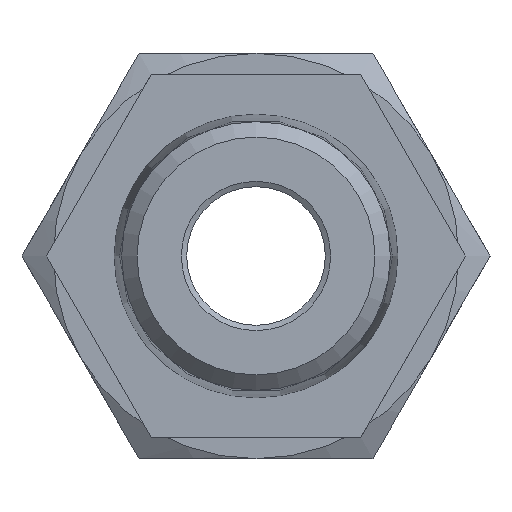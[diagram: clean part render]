
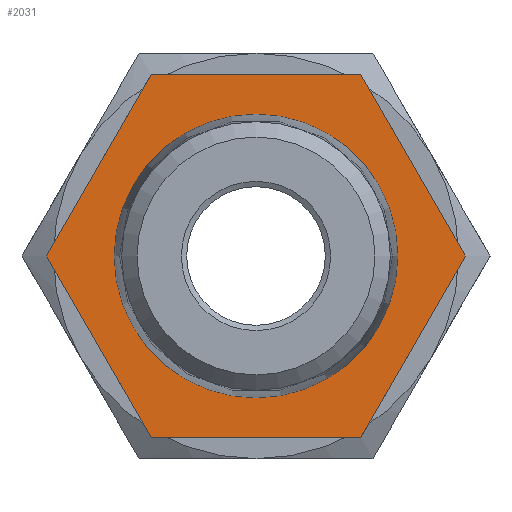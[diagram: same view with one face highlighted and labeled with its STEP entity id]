
A CAD part, front view. The second image highlights one B-rep face of the part: STEP entity #2031.
In plain terms, the highlighted planar face has unit normal (0, -1, 0).
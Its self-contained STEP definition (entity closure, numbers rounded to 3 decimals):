
#1252=CARTESIAN_POINT('',(4.907,12.,-8.5));
#1253=VERTEX_POINT('',#1252);
#1254=CARTESIAN_POINT('',(9.815,12.,0.0));
#1255=VERTEX_POINT('',#1254);
#1256=CARTESIAN_POINT('',(4.907,12.,-8.5));
#1257=DIRECTION('',(0.5,0.,0.866));
#1258=VECTOR('',#1257,9.815);
#1259=LINE('',#1256,#1258);
#1260=EDGE_CURVE('',#1253,#1255,#1259,.T.);
#1314=CARTESIAN_POINT('',(-9.815,12.,0.));
#1315=VERTEX_POINT('',#1314);
#1316=CARTESIAN_POINT('',(-4.907,12.,-8.5));
#1317=VERTEX_POINT('',#1316);
#1318=CARTESIAN_POINT('',(-9.815,12.,0.));
#1319=DIRECTION('',(0.5,0.,-0.866));
#1320=VECTOR('',#1319,9.815);
#1321=LINE('',#1318,#1320);
#1322=EDGE_CURVE('',#1315,#1317,#1321,.T.);
#1376=CARTESIAN_POINT('',(-4.907,12.,-8.5));
#1377=DIRECTION('',(1.0,0.,0.));
#1378=VECTOR('',#1377,9.815);
#1379=LINE('',#1376,#1378);
#1380=EDGE_CURVE('',#1317,#1253,#1379,.T.);
#1420=CARTESIAN_POINT('',(4.907,12.,8.5));
#1421=VERTEX_POINT('',#1420);
#1422=CARTESIAN_POINT('',(9.815,12.,0.0));
#1423=DIRECTION('',(-0.5,0.,0.866));
#1424=VECTOR('',#1423,9.815);
#1425=LINE('',#1422,#1424);
#1426=EDGE_CURVE('',#1255,#1421,#1425,.T.);
#1489=CARTESIAN_POINT('',(-4.907,12.,8.5));
#1490=VERTEX_POINT('',#1489);
#1491=CARTESIAN_POINT('',(-4.907,12.,8.5));
#1492=DIRECTION('',(-0.5,0.,-0.866));
#1493=VECTOR('',#1492,9.815);
#1494=LINE('',#1491,#1493);
#1495=EDGE_CURVE('',#1490,#1315,#1494,.T.);
#1526=CARTESIAN_POINT('',(4.907,12.,8.5));
#1527=DIRECTION('',(-1.0,0.0,0.0));
#1528=VECTOR('',#1527,9.815);
#1529=LINE('',#1526,#1528);
#1530=EDGE_CURVE('',#1421,#1490,#1529,.T.);
#2007=CARTESIAN_POINT('',(8.232,12.,0.0));
#2008=DIRECTION('',(0.0,-1.0,0.0));
#2009=DIRECTION('',(0.0,0.0,-1.0));
#2010=AXIS2_PLACEMENT_3D('',#2007,#2008,#2009);
#2011=PLANE('',#2010);
#2012=ORIENTED_EDGE('',*,*,#1495,.T.);
#2013=ORIENTED_EDGE('',*,*,#1322,.T.);
#2014=ORIENTED_EDGE('',*,*,#1380,.T.);
#2015=ORIENTED_EDGE('',*,*,#1260,.T.);
#2016=ORIENTED_EDGE('',*,*,#1426,.T.);
#2017=ORIENTED_EDGE('',*,*,#1530,.T.);
#2018=EDGE_LOOP('',(#2012,#2013,#2014,#2015,#2016,#2017));
#2019=FACE_OUTER_BOUND('',#2018,.T.);
#2020=CARTESIAN_POINT('',(6.65,12.,0.0));
#2021=VERTEX_POINT('',#2020);
#2022=CARTESIAN_POINT('',(0.,12.,0.0));
#2023=DIRECTION('',(0.0,-1.0,0.0));
#2024=DIRECTION('',(1.0,0.0,0.0));
#2025=AXIS2_PLACEMENT_3D('',#2022,#2023,#2024);
#2026=CIRCLE('',#2025,6.65);
#2027=EDGE_CURVE('',#2021,#2021,#2026,.T.);
#2028=ORIENTED_EDGE('',*,*,#2027,.F.);
#2029=EDGE_LOOP('',(#2028));
#2030=FACE_BOUND('',#2029,.T.);
#2031=ADVANCED_FACE('',(#2019,#2030),#2011,.T.);
